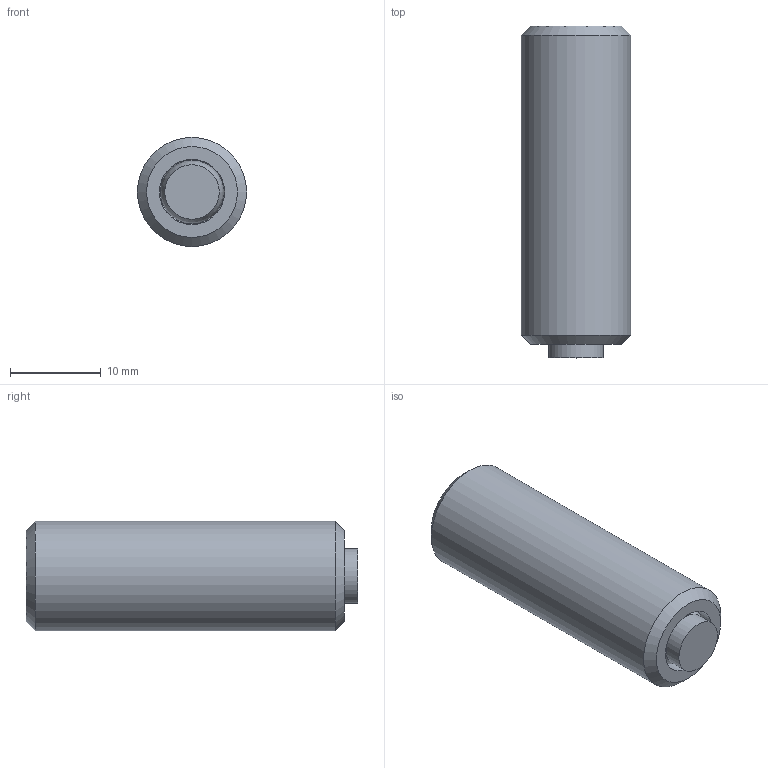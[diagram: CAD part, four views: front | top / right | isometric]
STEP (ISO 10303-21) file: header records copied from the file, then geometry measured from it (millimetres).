
FILE_DESCRIPTION( ( 'STEP AP203' ), '1' );
FILE_NAME( 'C:/Temp/Ganter_Step_05_03_2020/data/3_2/gn_709_8/gn_709_8k/Clamping pad GN 709.8-M12-35-K (0).stp', '2020-03-13T05:38:04', ( 'License CC BY-ND 4.0' ), ( 'CADENAS' ), ' ', 'PARTsolutions', ' ' );
FILE_SCHEMA( ( 'CONFIG_CONTROL_DESIGN' ) );
Length unit declared in the file: millimetre
Products named in the file (3): Clamping pad GN 709.8-M12-35-K (0); _Pendelelement GN 709.8-M12-35-K-1; _Pendelelement GN 709.8-M12-35-K-2
Assembly tree (2 placements, depth 2):
  Clamping pad GN 709.8-M12-35-K (0)
    _Pendelelement GN 709.8-M12-35-K-1
    _Pendelelement GN 709.8-M12-35-K-2
Bounding box: 12 x 36.5 x 12 mm (x, y, z)
Volume: 3718.8 mm3; surface area: 1921.8 mm2
Topology: 2 solids, 2 shells, 18 faces, 36 edges, 23 vertices
Faces by surface type: plane 11, cone 3, cylinder 3, sphere 1
Full cylindrical faces by diameter (mm): 6 x1, 7.18 x1, 12 x1
Entity records: 524 total; most frequent: DIRECTION 78, CARTESIAN_POINT 70, ORIENTED_EDGE 54, AXIS2_PLACEMENT_3D 30, EDGE_CURVE 27, EDGE_LOOP 26, VERTEX_POINT 22, FACE_OUTER_BOUND 21
